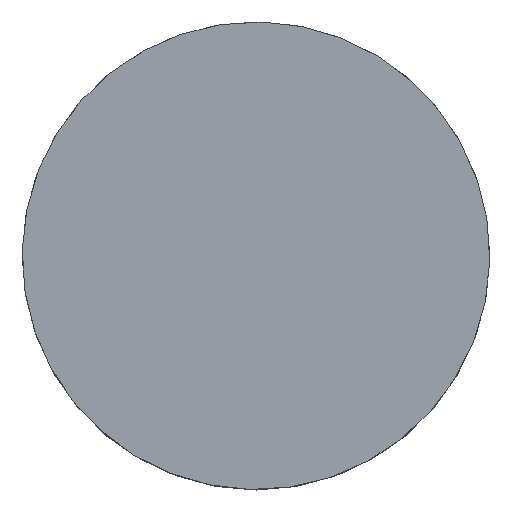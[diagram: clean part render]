
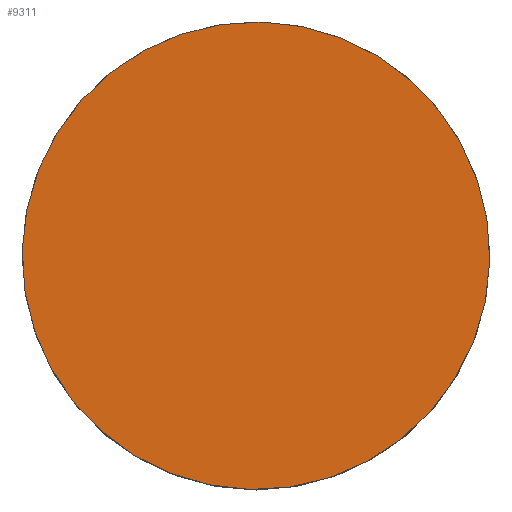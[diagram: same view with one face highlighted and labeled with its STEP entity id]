
A CAD part, top view. The second image highlights one B-rep face of the part: STEP entity #9311.
In plain terms, the highlighted planar face has unit normal (0, 0, 1).
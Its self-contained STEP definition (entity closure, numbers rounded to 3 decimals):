
#2686=PLANE('',#9961);
#3204=FACE_OUTER_BOUND('',#3774,.T.);
#3774=EDGE_LOOP('',(#8790));
#3947=CIRCLE('',#9960,21.);
#4805=VERTEX_POINT('',#16688);
#6134=EDGE_CURVE('',#4805,#4805,#3947,.T.);
#8790=ORIENTED_EDGE('',*,*,#6134,.T.);
#9311=ADVANCED_FACE('',(#3204),#2686,.T.);
#9960=AXIS2_PLACEMENT_3D('',#16690,#11861,#11862);
#9961=AXIS2_PLACEMENT_3D('',#16691,#11863,#11864);
#11861=DIRECTION('center_axis',(0.,0.,1.));
#11862=DIRECTION('ref_axis',(1.,0.,0.));
#11863=DIRECTION('center_axis',(0.,0.,1.));
#11864=DIRECTION('ref_axis',(1.,0.,0.));
#16688=CARTESIAN_POINT('',(-21.,0.,0.));
#16690=CARTESIAN_POINT('Origin',(0.,0.,0.));
#16691=CARTESIAN_POINT('Origin',(0.,0.,0.));
